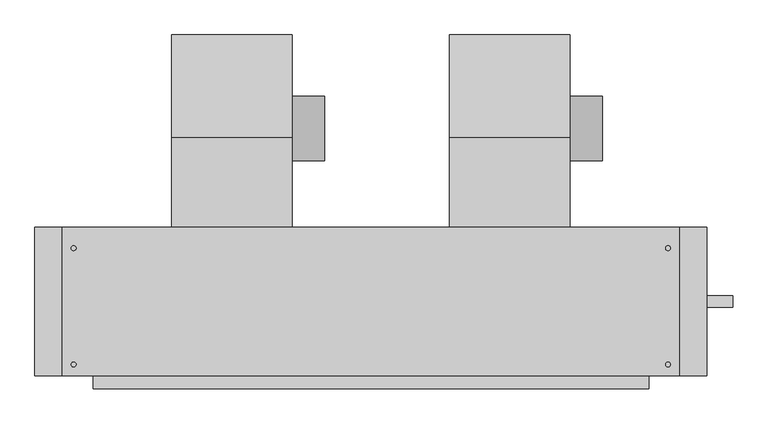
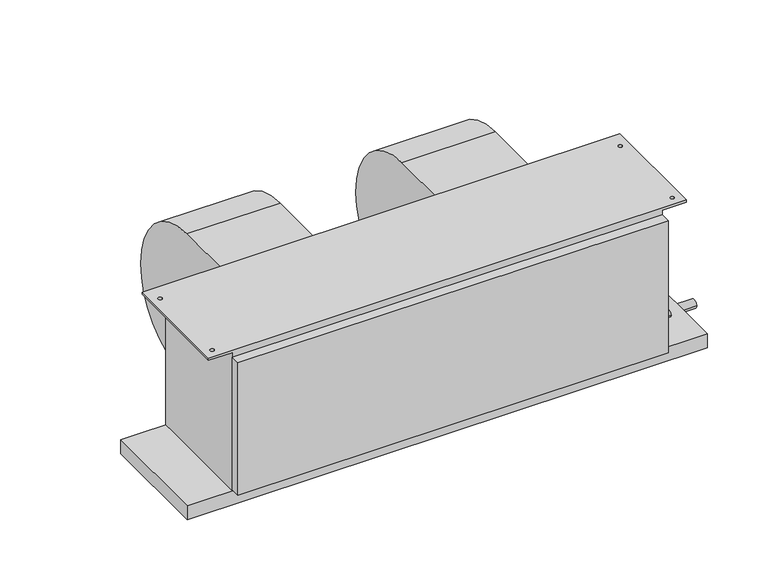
"""IFC4 building model written with IfcOpenShell, lengths in millimetres: proxy geometry, Concealed_High_Capacity_Horizontal_Fan_Coil_Unit_-_42DAA_-_CARRIER_-_4-Pipe_RH_2022 : Size 18 - 277v/60Hz/1Ph - 6/2 Coil."""

from ifc_helpers import new_model, si_unit, point, frame, frame_2d, origin, place, context, project, spatial, polyline, circle_curve, trimmed, segment, composite_curve, outline, extrude, source, transform, mapped, element, save
from ifc_brep_helpers import plane_surface, cylinder_surface, revolved_surface, advanced_brep


def mechanical_equipment_46685ae8(model_context):
    return source(origin(), model_context, "Body", "SolidModel", [
        extrude(outline(composite_curve([segment(trimmed(circle_curve(frame_2d((117.8757598, -213.2397468)), 63.5), [point((181.3757598, -213.2397468))], [point((54.3757598, -213.2397468))], False, "CARTESIAN"), True, "CONTINUOUS"), segment(trimmed(circle_curve(frame_2d((117.8757598, -213.2397468)), 63.5), [point((54.3757598, -213.2397468))], [point((181.3757598, -213.2397468))], False, "CARTESIAN"), True, "CONTINUOUS")], self_intersect=False)), frame((124.587, 0.0, 0.0), z_axis=(1.0, 0.0, 0.0), x_axis=(0.0, 1.0, 0.0)), (0.0, 0.0, 1.0), 63.5),
        advanced_brep(
        [(-111.887, 301.3905957, -228.379602), (-111.887, 120.4976, -409.99664), (-111.887, -35.0266, -283.45638), (-111.887, -76.2, -283.45638), (-111.887, -76.2, -25.4), (-111.887, 98.8830093, -25.4), (124.587, 301.3905957, -228.379602), (124.587, 98.8830093, -25.4), (124.587, -76.2, -25.4), (124.587, -76.2, -283.45638), (124.587, -35.0266, -283.45638), (124.587, 120.497599, -409.9957839)],
        [
            (0, 1, circle_curve(frame((-111.887, 120.31726, -228.92258), z_axis=(-1.0, 0.0, 0.0), x_axis=(0.0, -1.0, 0.0)), 181.0741498)),
            (1, 2, circle_curve(frame((-111.887, 120.31726, -251.37364), z_axis=(-1.0, 0.0, 0.0), x_axis=(0.0, -1.0, 0.0)), 158.6222464)),
            (2, 3),
            (3, 4),
            (4, 5),
            (5, 0, circle_curve(frame((-111.887, 97.8662, -228.92258), z_axis=(-1.0, 0.0, 0.0), x_axis=(0.0, -1.0, 0.0)), 203.52512)),
            (6, 7, circle_curve(frame((124.587, 97.8662, -228.92258), z_axis=(1.0, 0.0, 0.0), x_axis=(0.0, -1.0, 0.0)), 203.52512)),
            (7, 8),
            (8, 9),
            (9, 10),
            (10, 11, circle_curve(frame((124.587, 120.31726, -251.37364), z_axis=(1.0, 0.0, 0.0), x_axis=(0.0, -1.0, 0.0)), 158.6222464)),
            (11, 6, circle_curve(frame((124.587, 120.31726, -228.92258), z_axis=(1.0, 0.0, 0.0), x_axis=(0.0, -1.0, 0.0)), 181.0741498)),
            (0, 6),
            (11, 1),
            (10, 2),
            (9, 3),
            (8, 4),
            (7, 5),
        ],
        [
            plane_surface(frame((-111.887, -60.7568898, -228.92258), z_axis=(-1.0, 0.0, 0.0), x_axis=(0.0, 0.0, 1.0))),
            plane_surface(frame((124.587, -60.7568898, -228.92258), z_axis=(1.0, 0.0, 0.0), x_axis=(0.0, 0.0, -1.0))),
            cylinder_surface(frame((124.587, 120.31726, -228.92258), z_axis=(-1.0, 0.0, 0.0), x_axis=(0.0, -1.0, 0.0)), 181.0741498),
            cylinder_surface(frame((124.587, 120.31726, -251.37364), z_axis=(-1.0, 0.0, 0.0), x_axis=(0.0, -1.0, 0.0)), 158.6222464),
            plane_surface(frame((-111.887, -35.0266, -283.45638), z_axis=(0.0, 0.0, -1.0), x_axis=(1.0, 0.0, 0.0))),
            plane_surface(frame((-111.887, -76.2, -283.45638), z_axis=(0.0, -1.0, 0.0), x_axis=(1.0, 0.0, 0.0))),
            plane_surface(frame((-111.887, -76.2, -25.4), z_axis=(0.0, 0.0, 1.0), x_axis=(1.0, 0.0, 0.0))),
            cylinder_surface(frame((124.587, 97.8662, -228.92258), z_axis=(-1.0, 0.0, 0.0), x_axis=(0.0, -1.0, 0.0)), 203.52512),
        ],
        [
            (0, [[1, 2, 3, 4, 5, 6]]),
            (1, [[7, 8, 9, 10, 11, 12]]),
            (2, [[-1, 13, -12, 14]]),
            (3, [[-2, -14, -11, 15]]),
            (4, [[-3, -15, -10, 16]]),
            (5, [[-4, -16, -9, 17]]),
            (6, [[-5, -17, -8, 18]]),
            (7, [[-6, -18, -7, -13]]),
        ],
    ),
        extrude(outline(composite_curve([segment(trimmed(circle_curve(frame_2d((117.8757598, -213.2397468)), 63.5), [point((181.3757598, -213.2397468))], [point((54.3757598, -213.2397468))], False, "CARTESIAN"), True, "CONTINUOUS"), segment(trimmed(circle_curve(frame_2d((117.8757598, -213.2397468)), 63.5), [point((54.3757598, -213.2397468))], [point((181.3757598, -213.2397468))], False, "CARTESIAN"), True, "CONTINUOUS")], self_intersect=False)), frame((670.687, 0.0, 0.0), z_axis=(1.0, 0.0, 0.0), x_axis=(0.0, 1.0, 0.0)), (0.0, 0.0, 1.0), 63.5),
        advanced_brep(
        [(434.213, 301.3905957, -228.379602), (434.213, 120.4976, -409.99664), (434.213, -35.0266, -283.45638), (434.213, -76.2, -283.45638), (434.213, -76.2, -25.4), (434.213, 98.8830093, -25.4), (670.687, 301.3905957, -228.379602), (670.687, 98.8830093, -25.4), (670.687, -76.2, -25.4), (670.687, -76.2, -283.45638), (670.687, -35.0266, -283.45638), (670.687, 120.497599, -409.9957839)],
        [
            (0, 1, circle_curve(frame((434.213, 120.31726, -228.92258), z_axis=(-1.0, 0.0, 0.0), x_axis=(0.0, -1.0, 0.0)), 181.0741498)),
            (1, 2, circle_curve(frame((434.213, 120.31726, -251.37364), z_axis=(-1.0, 0.0, 0.0), x_axis=(0.0, -1.0, 0.0)), 158.6222464)),
            (2, 3),
            (3, 4),
            (4, 5),
            (5, 0, circle_curve(frame((434.213, 97.8662, -228.92258), z_axis=(-1.0, 0.0, 0.0), x_axis=(0.0, -1.0, 0.0)), 203.52512)),
            (6, 7, circle_curve(frame((670.687, 97.8662, -228.92258), z_axis=(1.0, 0.0, 0.0), x_axis=(0.0, -1.0, 0.0)), 203.52512)),
            (7, 8),
            (8, 9),
            (9, 10),
            (10, 11, circle_curve(frame((670.687, 120.31726, -251.37364), z_axis=(1.0, 0.0, 0.0), x_axis=(0.0, -1.0, 0.0)), 158.6222464)),
            (11, 6, circle_curve(frame((670.687, 120.31726, -228.92258), z_axis=(1.0, 0.0, 0.0), x_axis=(0.0, -1.0, 0.0)), 181.0741498)),
            (0, 6),
            (11, 1),
            (10, 2),
            (9, 3),
            (8, 4),
            (7, 5),
        ],
        [
            plane_surface(frame((434.213, -60.7568898, -228.92258), z_axis=(-1.0, 0.0, 0.0), x_axis=(0.0, 0.0, 1.0))),
            plane_surface(frame((670.687, -60.7568898, -228.92258), z_axis=(1.0, 0.0, 0.0), x_axis=(0.0, 0.0, -1.0))),
            cylinder_surface(frame((670.687, 120.31726, -228.92258), z_axis=(-1.0, 0.0, 0.0), x_axis=(0.0, -1.0, 0.0)), 181.0741498),
            cylinder_surface(frame((670.687, 120.31726, -251.37364), z_axis=(-1.0, 0.0, 0.0), x_axis=(0.0, -1.0, 0.0)), 158.6222464),
            plane_surface(frame((434.213, -35.0266, -283.45638), z_axis=(0.0, 0.0, -1.0), x_axis=(1.0, 0.0, 0.0))),
            plane_surface(frame((434.213, -76.2, -283.45638), z_axis=(0.0, -1.0, 0.0), x_axis=(1.0, 0.0, 0.0))),
            plane_surface(frame((434.213, -76.2, -25.4), z_axis=(0.0, 0.0, 1.0), x_axis=(1.0, 0.0, 0.0))),
            cylinder_surface(frame((670.687, 97.8662, -228.92258), z_axis=(-1.0, 0.0, 0.0), x_axis=(0.0, -1.0, 0.0)), 203.52512),
        ],
        [
            (0, [[1, 2, 3, 4, 5, 6]]),
            (1, [[7, 8, 9, 10, 11, 12]]),
            (2, [[-1, 13, -12, 14]]),
            (3, [[-2, -14, -11, 15]]),
            (4, [[-3, -15, -10, 16]]),
            (5, [[-4, -16, -9, 17]]),
            (6, [[-5, -17, -8, 18]]),
            (7, [[-6, -18, -7, -13]]),
        ],
    ),
        extrude(outline(polyline([(939.8, -76.2), (939.8, -368.3), (-381.0, -368.3), (-381.0, -76.2), (939.8, -76.2)])), frame((0.0, 0.0, -415.925), z_axis=(0.0, 0.0, 1.0), x_axis=(1.0, 0.0, 0.0)), (0.0, 0.0, 1.0), 38.1),
        extrude(outline(polyline([(825.5, -393.7), (-266.7, -393.7), (-266.7, -368.3), (825.5, -368.3), (825.5, -393.7)])), frame((0.0, 0.0, -374.65), z_axis=(0.0, 0.0, 1.0), x_axis=(1.0, 0.0, 0.0)), (0.0, 0.0, 1.0), 355.6),
        extrude(outline(composite_curve([segment(trimmed(circle_curve(frame_2d((-222.25, -403.225)), 11.1125), [point((-233.3625, -403.225))], [point((-211.1375, -403.225))], False, "CARTESIAN"), True, "CONTINUOUS"), segment(trimmed(circle_curve(frame_2d((-222.25, -403.225)), 11.1125), [point((-211.1375, -403.225))], [point((-233.3625, -403.225))], False, "CARTESIAN"), True, "CONTINUOUS")], self_intersect=False)), frame((939.8, 0.0, 0.0), z_axis=(1.0, 0.0, 0.0), x_axis=(0.0, 1.0, 0.0)), (0.0, 0.0, 1.0), 50.8),
        extrude(outline(composite_curve([segment(trimmed(circle_curve(frame_2d((-187.325, -122.2375)), 14.2875), [point((-173.0375, -122.2375))], [point((-201.6125, -122.2375))], False, "CARTESIAN"), True, "CONTINUOUS"), segment(trimmed(circle_curve(frame_2d((-187.325, -122.2375)), 14.2875), [point((-201.6125, -122.2375))], [point((-173.0375, -122.2375))], False, "CARTESIAN"), True, "CONTINUOUS")], self_intersect=False)), frame((825.5, 0.0, 0.0), z_axis=(1.0, 0.0, 0.0), x_axis=(0.0, 1.0, 0.0)), (0.0, 0.0, 1.0), 50.8),
        extrude(outline(composite_curve([segment(trimmed(circle_curve(frame_2d((-269.875, -265.1125)), 14.2875), [point((-255.5875, -265.1125))], [point((-284.1625, -265.1125))], False, "CARTESIAN"), True, "CONTINUOUS"), segment(trimmed(circle_curve(frame_2d((-269.875, -265.1125)), 14.2875), [point((-284.1625, -265.1125))], [point((-255.5875, -265.1125))], False, "CARTESIAN"), True, "CONTINUOUS")], self_intersect=False)), frame((825.5, 0.0, 0.0), z_axis=(1.0, 0.0, 0.0), x_axis=(0.0, 1.0, 0.0)), (0.0, 0.0, 1.0), 50.8),
        extrude(outline(composite_curve([segment(trimmed(circle_curve(frame_2d((-311.15, -19.05)), 7.9375), [point((-303.2125, -19.05))], [point((-319.0875, -19.05))], False, "CARTESIAN"), True, "CONTINUOUS"), segment(trimmed(circle_curve(frame_2d((-311.15, -19.05)), 7.9375), [point((-319.0875, -19.05))], [point((-303.2125, -19.05))], False, "CARTESIAN"), True, "CONTINUOUS")], self_intersect=False)), frame((825.5, 0.0, 0.0), z_axis=(1.0, 0.0, 0.0), x_axis=(0.0, 1.0, 0.0)), (0.0, 0.0, 1.0), 50.8),
        extrude(outline(composite_curve([segment(trimmed(circle_curve(frame_2d((-311.15, -336.55)), 7.9375), [point((-303.2125, -336.55))], [point((-319.0875, -336.55))], False, "CARTESIAN"), True, "CONTINUOUS"), segment(trimmed(circle_curve(frame_2d((-311.15, -336.55)), 7.9375), [point((-319.0875, -336.55))], [point((-303.2125, -336.55))], False, "CARTESIAN"), True, "CONTINUOUS")], self_intersect=False)), frame((825.5, 0.0, 0.0), z_axis=(1.0, 0.0, 0.0), x_axis=(0.0, 1.0, 0.0)), (0.0, 0.0, 1.0), 50.8),
        advanced_brep(
        [(825.5, -76.2, -377.825), (825.5, -368.3, -377.825), (-266.7, -368.3, -377.825), (-266.7, -76.2, -377.825), (-266.7, -368.3, -6.35), (-266.7, -76.2, -6.35), (825.5, -76.2, -6.35), (825.5, -368.3, -6.35), (-327.025, -76.2, 0.0), (-327.025, -368.3, 0.0), (885.825, -368.3, 0.0), (885.825, -76.2, 0.0), (-300.0375, -117.475, 0.0), (-309.5625, -117.475, 0.0), (-300.0375, -346.075, 0.0), (-309.5625, -346.075, 0.0), (868.3625, -117.475, 0.0), (858.8375, -117.475, 0.0), (868.3625, -346.075, 0.0), (858.8375, -346.075, 0.0), (-327.025, -76.2, -6.35), (-327.025, -368.3, -6.35), (-309.5625, -117.475, -6.35), (-300.0375, -117.475, -6.35), (-309.5625, -346.075, -6.35), (-300.0375, -346.075, -6.35), (885.825, -76.2, -6.35), (885.825, -368.3, -6.35), (858.8375, -117.475, -6.35), (868.3625, -117.475, -6.35), (858.8375, -346.075, -6.35), (868.3625, -346.075, -6.35)],
        [
            (0, 1),
            (1, 2),
            (2, 3),
            (3, 0),
            (2, 4),
            (4, 5),
            (5, 3),
            (0, 6),
            (6, 7),
            (7, 1),
            (8, 9),
            (9, 10),
            (10, 11),
            (11, 8),
            (12, 13, circle_curve(frame((-304.8, -117.475, 0.0), z_axis=(0.0, 0.0, -1.0), x_axis=(1.0, 0.0, 0.0)), 4.7625)),
            (13, 12, circle_curve(frame((-304.8, -117.475, 0.0), z_axis=(0.0, 0.0, -1.0), x_axis=(1.0, 0.0, 0.0)), 4.7625)),
            (14, 15, circle_curve(frame((-304.8, -346.075, 0.0), z_axis=(0.0, 0.0, -1.0), x_axis=(1.0, 0.0, 0.0)), 4.7625)),
            (15, 14, circle_curve(frame((-304.8, -346.075, 0.0), z_axis=(0.0, 0.0, -1.0), x_axis=(1.0, 0.0, 0.0)), 4.7625)),
            (16, 17, circle_curve(frame((863.6, -117.475, 0.0), z_axis=(0.0, 0.0, -1.0), x_axis=(1.0, 0.0, 0.0)), 4.7625)),
            (17, 16, circle_curve(frame((863.6, -117.475, 0.0), z_axis=(0.0, 0.0, -1.0), x_axis=(1.0, 0.0, 0.0)), 4.7625)),
            (18, 19, circle_curve(frame((863.6, -346.075, 0.0), z_axis=(0.0, 0.0, -1.0), x_axis=(1.0, 0.0, 0.0)), 4.7625)),
            (19, 18, circle_curve(frame((863.6, -346.075, 0.0), z_axis=(0.0, 0.0, -1.0), x_axis=(1.0, 0.0, 0.0)), 4.7625)),
            (20, 5),
            (4, 21),
            (21, 20),
            (22, 23, circle_curve(frame((-304.8, -117.475, -6.35), z_axis=(0.0, 0.0, 1.0), x_axis=(1.0, 0.0, 0.0)), 4.7625)),
            (23, 22, circle_curve(frame((-304.8, -117.475, -6.35), z_axis=(0.0, 0.0, 1.0), x_axis=(1.0, 0.0, 0.0)), 4.7625)),
            (24, 25, circle_curve(frame((-304.8, -346.075, -6.35), z_axis=(0.0, 0.0, 1.0), x_axis=(1.0, 0.0, 0.0)), 4.7625)),
            (25, 24, circle_curve(frame((-304.8, -346.075, -6.35), z_axis=(0.0, 0.0, 1.0), x_axis=(1.0, 0.0, 0.0)), 4.7625)),
            (26, 27),
            (27, 7),
            (6, 26),
            (28, 29, circle_curve(frame((863.6, -117.475, -6.35), z_axis=(0.0, 0.0, 1.0), x_axis=(1.0, 0.0, 0.0)), 4.7625)),
            (29, 28, circle_curve(frame((863.6, -117.475, -6.35), z_axis=(0.0, 0.0, 1.0), x_axis=(1.0, 0.0, 0.0)), 4.7625)),
            (30, 31, circle_curve(frame((863.6, -346.075, -6.35), z_axis=(0.0, 0.0, 1.0), x_axis=(1.0, 0.0, 0.0)), 4.7625)),
            (31, 30, circle_curve(frame((863.6, -346.075, -6.35), z_axis=(0.0, 0.0, 1.0), x_axis=(1.0, 0.0, 0.0)), 4.7625)),
            (8, 20),
            (21, 9),
            (27, 10),
            (11, 26),
            (12, 23),
            (22, 13),
            (14, 25),
            (24, 15),
            (16, 29),
            (28, 17),
            (18, 31),
            (30, 19),
        ],
        [
            plane_surface(frame((-266.7, -76.2, -377.825), z_axis=(0.0, 0.0, -1.0), x_axis=(1.0, 0.0, 0.0))),
            plane_surface(frame((-266.7, -76.2, 0.0), z_axis=(-1.0, 0.0, 0.0), x_axis=(0.0, 0.0, -1.0))),
            plane_surface(frame((825.5, -368.3, 0.0), z_axis=(1.0, 0.0, 0.0), x_axis=(0.0, 0.0, -1.0))),
            plane_surface(frame((-327.025, -76.2, 0.0), z_axis=(0.0, 0.0, 1.0), x_axis=(0.0, -1.0, 0.0))),
            plane_surface(frame((-327.025, -76.2, -6.35), z_axis=(0.0, 0.0, -1.0), x_axis=(0.0, 1.0, 0.0))),
            plane_surface(frame((-327.025, -76.2, 0.0), z_axis=(-1.0, 0.0, 0.0), x_axis=(0.0, 0.0, -1.0))),
            plane_surface(frame((-327.025, -368.3, 0.0), z_axis=(0.0, -1.0, 0.0), x_axis=(0.0, 0.0, -1.0))),
            plane_surface(frame((-266.7, -76.2, 0.0), z_axis=(0.0, 1.0, 0.0), x_axis=(0.0, 0.0, -1.0))),
            plane_surface(frame((885.825, -368.3, 0.0), z_axis=(1.0, 0.0, 0.0), x_axis=(0.0, 0.0, -1.0))),
            revolved_surface(polyline([(-300.0375, -117.475, 0.0), (-300.0375, -117.475, -6.35)]), (-304.8, -117.475, -6.35), (0.0, 0.0, 1.0)),
            revolved_surface(polyline([(-300.0375, -346.075, 0.0), (-300.0375, -346.075, -6.35)]), (-304.8, -346.075, 0.0), (0.0, 0.0, 1.0)),
            revolved_surface(polyline([(868.3625000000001, -117.475, 0.0), (868.3625000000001, -117.475, -6.35)]), (863.6, -117.475, 0.0), (0.0, 0.0, 1.0)),
            revolved_surface(polyline([(868.3625000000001, -346.075, 0.0), (868.3625000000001, -346.075, -6.35)]), (863.6, -346.075, 0.0), (0.0, 0.0, 1.0)),
        ],
        [
            (0, [[1, 2, 3, 4]]),
            (1, [[-3, 5, 6, 7]]),
            (2, [[-1, 8, 9, 10]]),
            (3, [[11, 12, 13, 14], [15, 16], [17, 18], [19, 20], [21, 22]]),
            (4, [[23, -6, 24, 25], [26, 27], [28, 29]]),
            (4, [[30, 31, -9, 32], [33, 34], [35, 36]]),
            (5, [[-11, 37, -25, 38]]),
            (6, [[-12, -38, -24, -5, -2, -10, -31, 39]]),
            (7, [[-14, 40, -32, -8, -4, -7, -23, -37]]),
            (8, [[-13, -39, -30, -40]]),
            (9, [[41, -26, 42, -15]]),
            (9, [[-41, -16, -42, -27]]),
            (10, [[43, -28, 44, -17]]),
            (10, [[-43, -18, -44, -29]]),
            (11, [[45, -33, 46, -19]]),
            (11, [[-45, -20, -46, -34]]),
            (12, [[47, -35, 48, -21]]),
            (12, [[-47, -22, -48, -36]]),
        ],
    ),
    ])


if __name__ == "__main__":
    model = new_model("IFC4")
    model_context = context("Model", 3, world=origin())
    ifc_project = project(units=[si_unit("LENGTHUNIT", "METRE", prefix="MILLI")], contexts=[model_context])
    site = spatial("IfcSite", under=ifc_project)
    building = spatial("IfcBuilding", under=site)
    placement = place(None, origin())
    mechanical_equipment_shape = mechanical_equipment_46685ae8(model_context)
    element("IfcBuildingElementProxy", 1, Name="Concealed_High_Capacity_Horizontal_Fan_Coil_Unit_-_42DAA_-_CARRIER_-_4-Pipe_RH_2022 : Size 18 - 277v/60Hz/1Ph - 6/2 Coil", ObjectType="Concealed_High_Capacity_Horizontal_Fan_Coil_Unit_-_42DAA_-_CARRIER_-_4-Pipe_RH_2022 : Size 18 - 277v/60Hz/1Ph - 6/2 Coil", at=placement, inside=building, context=model_context, shape_type="MappedRepresentation", body=[
        mapped(mechanical_equipment_shape, transform((0.0, 0.0, 0.0), x_axis=(1.0, 0.0, 0.0), y_axis=(0.0, 1.0, 0.0), z_axis=(0.0, 0.0, 1.0))),
    ])
    save(model, "model.ifc")
